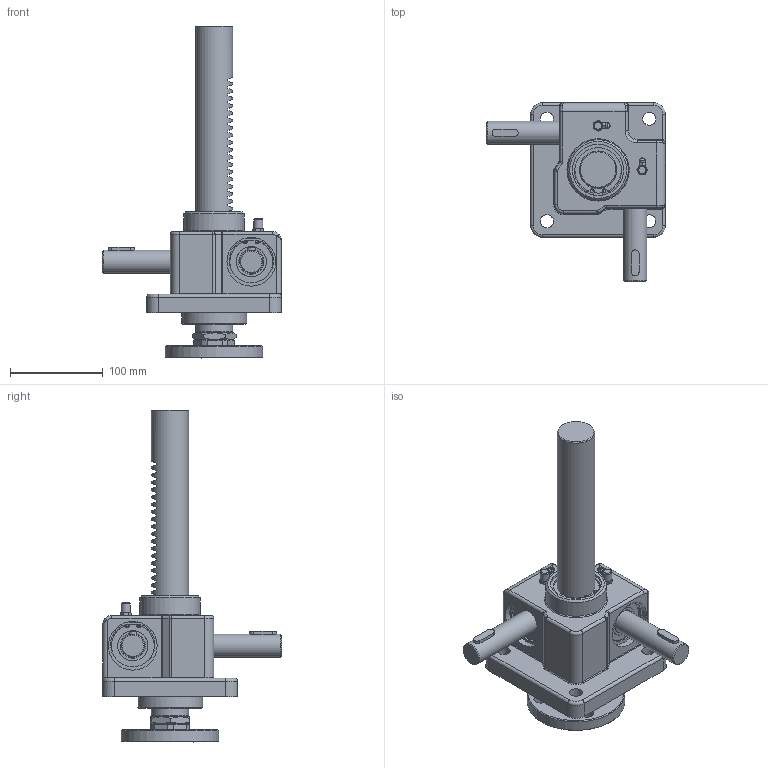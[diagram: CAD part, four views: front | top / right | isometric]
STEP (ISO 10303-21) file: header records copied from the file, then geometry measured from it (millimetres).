
FILE_DESCRIPTION(('STEP AP203'),'1');
FILE_NAME('SP1-3000FU-200ST.stp','2022-06-15T06:00:11',(' '),(' '),'Spatial InterOp 3D',' ',' ');
FILE_SCHEMA(('CONFIG_CONTROL_DESIGN'));
Length unit declared in the file: millimetre
Products named in the file (20): SP1-3000FU-200ST; Rack Gear(SP-3000F); Flange-Part; Nut; Joint; Flange; Body-Part; Nipple; 6205zz; SnapRing-55Pie; SnapRing-58Pie; Du Bush; Key; Shaft(SP1-3000F); Gear Box(SP-3000); RJ05-4SCJ-610X600-100ST_CAP; LABEL-B.1; ___; 파트18; __
Assembly tree (26 placements, depth 5):
  SP1-3000FU-200ST
    Rack Gear(SP-3000F)
    Flange-Part
      Nut
      Joint
      Flange
    Body-Part
      Nipple  x2
      6205zz  x2
      SnapRing-55Pie  x2
      SnapRing-58Pie  x2
      Du Bush  x2
      Key  x2
      Shaft(SP1-3000F)  x2
      Gear Box(SP-3000)
    __
      ___
        RJ05-4SCJ-610X600-100ST_CAP
          LABEL-B.1
        파트18
Bounding box: 192.5 x 192.72 x 357 mm (x, y, z)
Volume: 1373213.5 mm3; surface area: 297230.8 mm2
Topology: 27 solids, 27 shells, 2489 faces, 6893 edges, 4461 vertices
Faces by surface type: plane 2041, cylinder 261, cone 65, sphere 50, torus 48, bspline 16, revolution 8
Full cylindrical faces by diameter (mm): 3.087 x4, 3.257 x4, 5.6 x2, 6 x2, 9.886 x2, 14 x8, 19 x2, 25 x4, 28 x3, 30 x2, 32 x1, 32.5 x4, 40 x3, 44 x1, 45 x2, 46.1 x4, 50 x4, 52 x4, 52.4 x2, 54 x1, 55 x5, 58 x2, 65 x1, 70 x1, 105 x1
Entity records: 76861 total; most frequent: CARTESIAN_POINT 15783, ORIENTED_EDGE 12758, DIRECTION 11682, EDGE_CURVE 6379, LINE 5528, VECTOR 5528, VERTEX_POINT 4210, AXIS2_PLACEMENT_3D 3074
